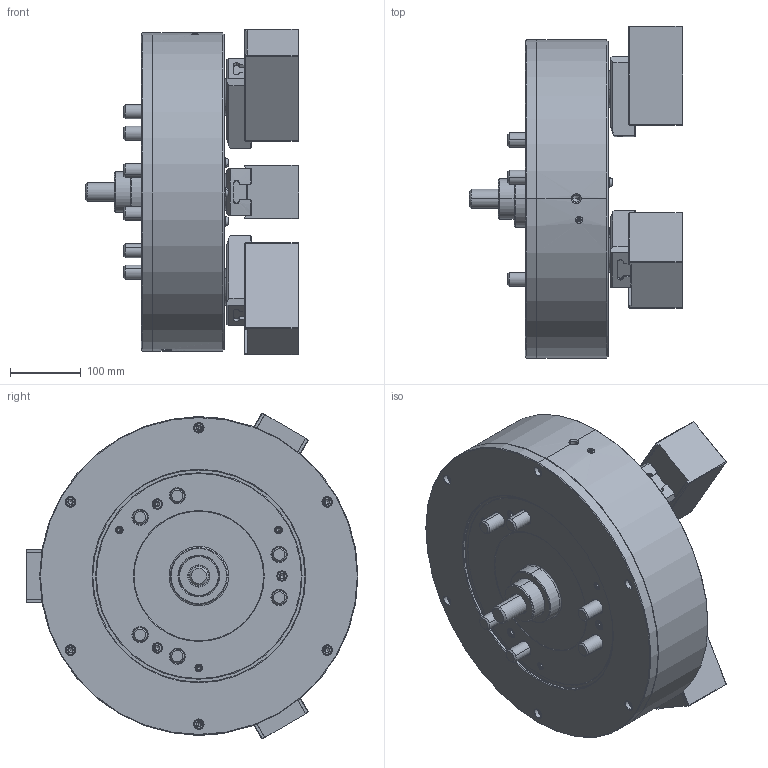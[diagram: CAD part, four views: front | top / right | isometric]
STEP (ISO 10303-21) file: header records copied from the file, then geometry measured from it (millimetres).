
FILE_DESCRIPTION (( 'STEP AP214' ), '1' );
FILE_NAME ('PW-18_CL_ID.STEP', '2024-02-07T07:04:58', ( '' ), ( '' ), 'SwSTEP 2.0', 'SolidWorks 2022', '' );
FILE_SCHEMA (( 'AUTOMOTIVE_DESIGN' ));
Length unit declared in the file: millimetre
Products named in the file (9): 61P326096; 0030127150; PW-18_結合_ID; 61P422878; PW-18_CL_ID; 0033108012; 0030120030; 61P422887; 0030120120
Assembly tree (24 placements, depth 2):
  PW-18_CL_ID
    61P422887
    0030120120  x6
    0030127150
    0033108012  x3
    61P326096  x3
    61P422878  x3
    0030120030  x6
    PW-18_結合_ID
Bounding box: 302 x 469.35 x 460.33 mm (x, y, z)
Volume: 21086385.5 mm3; surface area: 1024689.2 mm2
Topology: 24 solids, 27 shells, 3956 faces, 10330 edges, 6697 vertices
Faces by surface type: plane 1961, bspline 960, cone 554, cylinder 441, torus 32, sphere 8
Entity records: 144596 total; most frequent: CARTESIAN_POINT 62728, ORIENTED_EDGE 18740, DIRECTION 13229, EDGE_CURVE 9370, VERTEX_POINT 6137, VECTOR 5567, LINE 5567, EDGE_LOOP 3903
